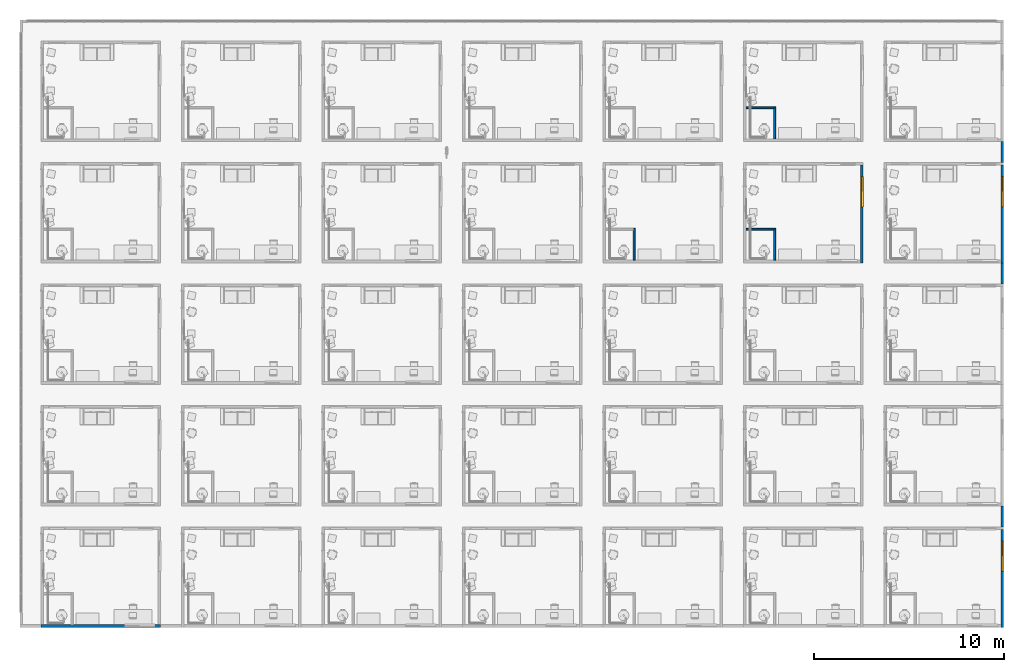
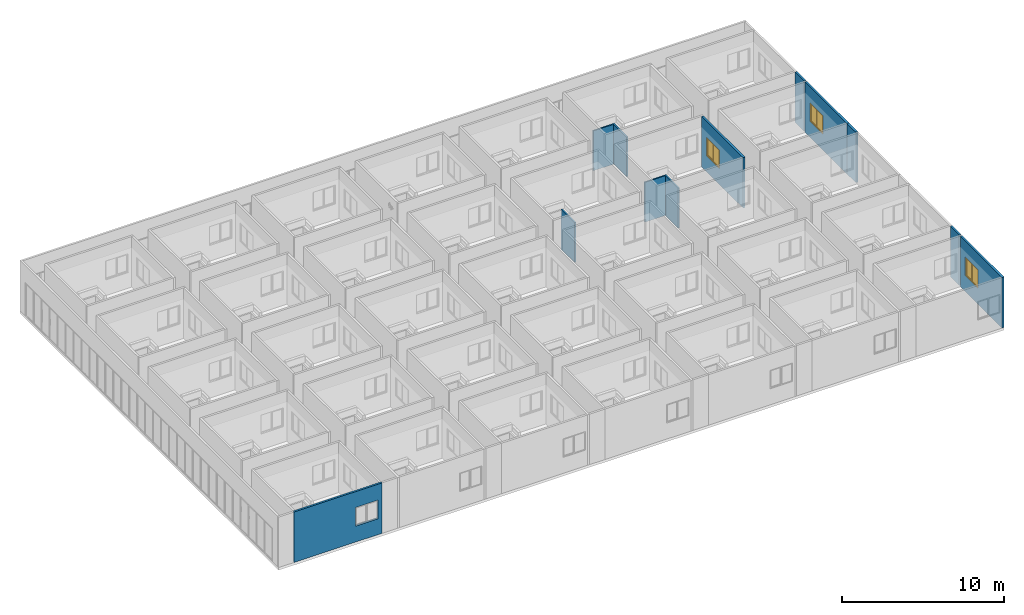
# One storey, part 9 of 69: 12 walls, 3 windows, 4 openings.
"""IFC4 building model written with IfcOpenShell, lengths in centimetres."""

import ifcopenshell
import ifcopenshell.guid

model = None  # the IFC model being written
_history = None  # IfcOwnerHistory: only IFC2X3 demands one
_inside = {}  # id of a spatial element -> (the spatial element, [elements in it])
_under = {}  # id of a project, library or spatial element -> (it, [spatial elements below it])
_declared = {}  # id of a project -> (the project, [libraries it declares])
_typed = {}  # id of a type object -> (the type object, [elements of that type])
_made_of = {}  # id of a material, layer set ... -> (it, [elements and type objects made of it])


def new_model(schema):
    """Start an empty IFC model of exactly this schema.

    Asked for "IFC4X3", IfcOpenShell would pick the latest addendum, in which some entities
    have other attributes; the version numbers below select the first issue.
    IFC2X3 requires an IfcOwnerHistory on every rooted entity: one is made here for all.
    """
    global model, _history
    if schema == "IFC4X3":
        model = ifcopenshell.file(schema_version=(4, 3, 0, 0))
    else:
        model = ifcopenshell.file(schema=schema)
    _inside.clear()
    _under.clear()
    _declared.clear()
    _typed.clear()
    _made_of.clear()
    _history = None
    if model.schema == "IFC2X3":
        org = make("IfcOrganization", Name="unknown")
        user = make(
            "IfcPersonAndOrganization",
            ThePerson=make("IfcPerson", FamilyName="unknown"),
            TheOrganization=org,
        )
        app = make(
            "IfcApplication",
            ApplicationDeveloper=org,
            Version="unknown",
            ApplicationFullName="unknown",
            ApplicationIdentifier="unknown",
        )
        _history = make(
            "IfcOwnerHistory",
            OwningUser=user,
            OwningApplication=app,
            ChangeAction="ADDED",
            CreationDate=0,
        )
    return model


def make(cls, **values):
    """One entity of the class cls with the attributes given. An attribute that is None is left unset."""
    return model.create_entity(
        cls, **{name: value for name, value in values.items() if value is not None}
    )


def entity(cls, *values):
    """Any entity or typed value of the class cls, its attributes in the order of the schema. None: left unset."""
    e = model.create_entity(cls)
    for i, value in enumerate(values):
        if value is not None:
            e[i] = value
    return e


def rooted(cls, **values):
    """An entity with a GlobalId (a new one), such as an element, a storey or a relation."""
    return make(cls, GlobalId=ifcopenshell.guid.new(), OwnerHistory=_history, **values)


def si_unit(unit_type, name, prefix=None):
    """IfcSIUnit, for example si_unit("LENGTHUNIT", "METRE", prefix="MILLI")."""
    return make("IfcSIUnit", UnitType=unit_type, Prefix=prefix, Name=name)


def converted_unit(unit_type, name, factor, base, dimensions=None, offset=None):
    """IfcConversionBasedUnit, such as the inch: factor (a typed value) times the base unit."""
    return make(
        "IfcConversionBasedUnit"
        if offset is None
        else "IfcConversionBasedUnitWithOffset",
        ConversionOffset=offset,
        Dimensions=None
        if dimensions is None
        else entity("IfcDimensionalExponents", *dimensions),
        UnitType=unit_type,
        Name=name,
        ConversionFactor=make(
            "IfcMeasureWithUnit", ValueComponent=factor, UnitComponent=base
        ),
    )


def derived_unit(unit_type, elements):
    """IfcDerivedUnit: a product of units, each with its exponent."""
    return make(
        "IfcDerivedUnit",
        Elements=[
            make("IfcDerivedUnitElement", Unit=unit, Exponent=power)
            for unit, power in elements
        ],
        UnitType=unit_type,
    )


def assignment(units):
    """IfcUnitAssignment: the units of a project."""
    return None if units is None else make("IfcUnitAssignment", Units=units)


def point(xyz):
    """IfcCartesianPoint."""
    return None if xyz is None else make("IfcCartesianPoint", Coordinates=xyz)


def direction(xyz):
    """IfcDirection."""
    return None if xyz is None else make("IfcDirection", DirectionRatios=xyz)


def frame(location, z_axis=None, x_axis=None):
    """IfcAxis2Placement3D, a coordinate frame: its origin and axes. An axis left out is left unset."""
    return make(
        "IfcAxis2Placement3D",
        Location=point(location),
        Axis=direction(z_axis),
        RefDirection=direction(x_axis),
    )


def origin():
    """The frame at (0, 0, 0) with its axes left unset."""
    return frame((0.0, 0.0, 0.0))


def place(relative_to, where):
    """IfcLocalPlacement: puts the frame where relative to a parent placement (None: the world)."""
    return make(
        "IfcLocalPlacement", PlacementRelTo=relative_to, RelativePlacement=where
    )


def context(
    kind, dimensions, precision=None, world=None, true_north=None, identifier=None
):
    """IfcGeometricRepresentationContext, for example the 3D "Model" context."""
    return make(
        "IfcGeometricRepresentationContext",
        ContextIdentifier=identifier,
        ContextType=kind,
        CoordinateSpaceDimension=dimensions,
        Precision=precision,
        WorldCoordinateSystem=world,
        TrueNorth=true_north,
    )


def subcontext(parent, identifier, kind, view, scale=None):
    """IfcGeometricRepresentationSubContext, for example "Body" below "Model"."""
    return make(
        "IfcGeometricRepresentationSubContext",
        ContextIdentifier=identifier,
        ContextType=kind,
        ParentContext=parent,
        TargetScale=scale,
        TargetView=view,
    )


def project(units=None, contexts=None):
    """IfcProject with its units and contexts."""
    return rooted(
        "IfcProject",
        Name="project",
        RepresentationContexts=contexts,
        UnitsInContext=assignment(units),
    )


def spatial(cls, under=None, at=None, **own):
    """A site, building, storey or space (cls), placed at a placement, below another one or the project."""
    s = rooted(cls, ObjectPlacement=at, **own)
    if under is not None:
        _under.setdefault(under.id(), (under, []))[1].append(s)
    return s


def point_list(points):
    """IfcCartesianPointList2D or 3D."""
    cls = (
        "IfcCartesianPointList2D" if len(points[0]) == 2 else "IfcCartesianPointList3D"
    )
    return make(cls, CoordList=points)


def indexed_curve(points, segments=None, self_intersect=None):
    """IfcIndexedPolyCurve: lines and arcs through numbered points (the first is 1)."""
    return make(
        "IfcIndexedPolyCurve",
        Points=point_list(points),
        Segments=segments,
        SelfIntersect=self_intersect,
    )


def outline(outer, holes=None, kind="AREA"):
    """IfcArbitraryClosedProfileDef: a profile drawn as a closed curve; with holes, ...WithVoids."""
    if holes is None:
        return make("IfcArbitraryClosedProfileDef", ProfileType=kind, OuterCurve=outer)
    return make(
        "IfcArbitraryProfileDefWithVoids",
        ProfileType=kind,
        OuterCurve=outer,
        InnerCurves=holes,
    )


def extrude(swept, where, along, depth):
    """IfcExtrudedAreaSolid: the profile swept, set in the frame where, extruded along a direction by depth."""
    return make(
        "IfcExtrudedAreaSolid",
        SweptArea=swept,
        Position=where,
        ExtrudedDirection=direction(along),
        Depth=depth,
    )


def polygons(points, faces, closed=None, point_numbers=None):
    """IfcPolygonalFaceSet: a face is its outer loop, then its inner loops; points numbered from 1."""
    made = []
    for loops in faces:
        if len(loops) == 1:
            made.append(make("IfcIndexedPolygonalFace", CoordIndex=loops[0]))
        else:
            made.append(
                make(
                    "IfcIndexedPolygonalFaceWithVoids",
                    CoordIndex=loops[0],
                    InnerCoordIndices=loops[1:],
                )
            )
    return make(
        "IfcPolygonalFaceSet",
        Coordinates=point_list(points),
        Closed=closed,
        Faces=made,
        PnIndex=point_numbers,
    )


def shape(context_of_items, identifier, shape_type, items):
    """IfcShapeRepresentation: the items that make up one representation, for example the "Body"."""
    return make(
        "IfcShapeRepresentation",
        ContextOfItems=context_of_items,
        RepresentationIdentifier=identifier,
        RepresentationType=shape_type,
        Items=items,
    )


def source(mapping_origin, context_of_items, identifier, shape_type, items):
    """IfcRepresentationMap: a shape defined once, which mapped items show again and again."""
    return make(
        "IfcRepresentationMap",
        MappingOrigin=mapping_origin,
        MappedRepresentation=shape(context_of_items, identifier, shape_type, items),
    )


def transform(
    local_origin,
    x_axis=None,
    y_axis=None,
    z_axis=None,
    scale=None,
    scale2=None,
    scale3=None,
    uniform=True,
):
    """IfcCartesianTransformationOperator3D, or its non-uniform kind. x_axis, y_axis, z_axis: its Axis1, 2, 3."""
    if uniform:
        return make(
            "IfcCartesianTransformationOperator3D",
            Axis1=direction(x_axis),
            Axis2=direction(y_axis),
            LocalOrigin=point(local_origin),
            Scale=scale,
            Axis3=direction(z_axis),
        )
    return make(
        "IfcCartesianTransformationOperator3DnonUniform",
        Axis1=direction(x_axis),
        Axis2=direction(y_axis),
        LocalOrigin=point(local_origin),
        Scale=scale,
        Axis3=direction(z_axis),
        Scale2=scale2,
        Scale3=scale3,
    )


def mapped(mapping_source, mapping_target):
    """IfcMappedItem: shows the shape of a source again, moved by a transform."""
    return make(
        "IfcMappedItem", MappingSource=mapping_source, MappingTarget=mapping_target
    )


def material(Name=None, Category=None):
    """IfcMaterial."""
    return make("IfcMaterial", Name=Name, Category=Category)


def constituent(of_material, Name=None, Category=None, fraction=None):
    """IfcMaterialConstituent: one of the materials an element consists of."""
    return make(
        "IfcMaterialConstituent",
        Name=Name,
        Material=of_material,
        Fraction=fraction,
        Category=Category,
    )


def constituent_set(constituents=None, Name=None):
    """IfcMaterialConstituentSet."""
    return make(
        "IfcMaterialConstituentSet", Name=Name, MaterialConstituents=constituents
    )


def made_of(thing, what):
    """Note that an element or type object is made of a material, layer set ...; save() writes the relation."""
    if what is not None:
        _made_of.setdefault(what.id(), (what, []))[1].append(thing)
    return thing


def type_object(cls, material=None, **own):
    """A type object (cls), such as IfcWallType, which elements share."""
    return made_of(rooted(cls, **own), material)


def type_shapes(of_type, sources):
    """Give a type object the sources (RepresentationMaps) that its elements show as mapped items."""
    of_type.RepresentationMaps = sources


def element(
    cls,
    number,
    at=None,
    inside=None,
    cuts=None,
    type_object=None,
    material=None,
    context=None,
    identifier="Body",
    shape_type=None,
    held_by="IfcProductDefinitionShape",
    body=None,
    shapes=None,
    **own,
):
    """One element of the class cls, such as IfcWall. Its Tag is "e" and its number.

    at: its placement. inside: the storey or other place that contains it. cuts: it is an
    opening in that element (IfcRelVoidsElement). A single representation is given by context,
    identifier, shape_type and body (its items); several are given by shapes. held_by: the class
    of the entity that holds the representations. save() writes the other relations.
    """
    e = rooted(cls, Tag="e%d" % number, ObjectPlacement=at, **own)
    if body is not None:
        shapes = [shape(context, identifier, shape_type, body)]
    if shapes is not None:
        e.Representation = make(held_by, Representations=shapes)
    if inside is not None:
        _inside.setdefault(inside.id(), (inside, []))[1].append(e)
    if cuts is not None:
        rooted(
            "IfcRelVoidsElement", RelatingBuildingElement=cuts, RelatedOpeningElement=e
        )
    if type_object is not None:
        _typed.setdefault(type_object.id(), (type_object, []))[1].append(e)
    return made_of(e, material)


def fill(opening, filler):
    """IfcRelFillsElement: the door or window that sits in an opening."""
    return rooted(
        "IfcRelFillsElement",
        RelatingOpeningElement=opening,
        RelatedBuildingElement=filler,
    )


def aggregate(whole, parts):
    """IfcRelAggregates: a whole, such as a stair, and the parts it consists of."""
    return rooted("IfcRelAggregates", RelatingObject=whole, RelatedObjects=parts)


def save(model, path):
    """Write the relations noted so far, then the file.

    IfcRelAggregates (storeys below a building ...), IfcRelContainedInSpatialStructure (elements
    in a storey), IfcRelDefinesByType, IfcRelAssociatesMaterial and IfcRelDeclares: one each for
    every whole, place, type object, material and project.
    """
    for whole, parts in _under.values():
        aggregate(whole, parts)
    for where, things in _inside.values():
        rooted(
            "IfcRelContainedInSpatialStructure",
            RelatedElements=things,
            RelatingStructure=where,
        )
    for kind, things in _typed.values():
        rooted("IfcRelDefinesByType", RelatedObjects=things, RelatingType=kind)
    for what, things in _made_of.values():
        rooted("IfcRelAssociatesMaterial", RelatedObjects=things, RelatingMaterial=what)
    for by, libraries in _declared.values():
        rooted("IfcRelDeclares", RelatingContext=by, RelatedDefinitions=libraries)
    model.write(path)


model = new_model("IFC4")

# Units and contexts
model_context = context("Model", 3, precision=0.001, world=origin(), true_north=direction((6.123233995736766e-17, 1.0)))
body_context = subcontext(model_context, "Body", "Model", "MODEL_VIEW")
ifc_project = project(units=[si_unit("LENGTHUNIT", "METRE", prefix="CENTI"), si_unit("AREAUNIT", "SQUARE_METRE"), si_unit("VOLUMEUNIT", "CUBIC_METRE"), derived_unit("THERMALTRANSMITTANCEUNIT", [(si_unit("MASSUNIT", "GRAM", prefix="KILO"), 1), (si_unit("THERMODYNAMICTEMPERATUREUNIT", "KELVIN"), -1), (si_unit("TIMEUNIT", "SECOND"), -3)]), converted_unit("PLANEANGLEUNIT", "DEGREE", entity("IfcPlaneAngleMeasure", 0.017453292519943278), si_unit("PLANEANGLEUNIT", "RADIAN"), dimensions=[0, 0, 0, 0, 0, 0, 0]), derived_unit("MASSDENSITYUNIT", [(si_unit("MASSUNIT", "GRAM", prefix="KILO"), 1), (si_unit("LENGTHUNIT", "METRE"), -3)]), derived_unit("VAPORPERMEABILITYUNIT", [(si_unit("LENGTHUNIT", "METRE"), -1), (si_unit("TIMEUNIT", "SECOND"), 1)]), derived_unit("USERDEFINED", [(si_unit("MASSUNIT", "GRAM", prefix="KILO"), 1), (si_unit("TIMEUNIT", "SECOND"), -3), (si_unit("LENGTHUNIT", "METRE"), 3), (si_unit("ELECTRICCURRENTUNIT", "AMPERE"), -2)]), derived_unit("SPECIFICHEATCAPACITYUNIT", [(si_unit("THERMODYNAMICTEMPERATUREUNIT", "KELVIN"), -1), (si_unit("LENGTHUNIT", "METRE"), 2), (si_unit("TIMEUNIT", "SECOND"), -2)]), derived_unit("THERMALCONDUCTANCEUNIT", [(si_unit("MASSUNIT", "GRAM", prefix="KILO"), 1), (si_unit("THERMODYNAMICTEMPERATUREUNIT", "KELVIN"), -1), (si_unit("TIMEUNIT", "SECOND"), -3), (si_unit("LENGTHUNIT", "METRE"), 1)]), si_unit("PRESSUREUNIT", "PASCAL"), derived_unit("MODULUSOFELASTICITYUNIT", [(si_unit("MASSUNIT", "GRAM", prefix="KILO"), 1), (si_unit("LENGTHUNIT", "METRE"), -1), (si_unit("TIMEUNIT", "SECOND"), -2)]), derived_unit("THERMALEXPANSIONCOEFFICIENTUNIT", [(si_unit("THERMODYNAMICTEMPERATUREUNIT", "KELVIN"), -1)])], contexts=[model_context])

# Site, building, storey
site_placement = place(None, origin())
site = spatial("IfcSite", under=ifc_project, at=site_placement, Name="Default", CompositionType="ELEMENT")
building_placement = place(site_placement, origin())
building = spatial("IfcBuilding", under=site, at=building_placement, Name="IDS Escape Game Building", CompositionType="ELEMENT")
storey_placement = place(building_placement, origin())
storey = spatial("IfcBuildingStorey", under=building, at=storey_placement, Name="00_Ground Floor", CompositionType="ELEMENT", Elevation=0.0)

# Wall, opening
ifc_material_1 = material(Name="ARC_FME.g2_Fg2 Masonry_00_gen_BERSnl", Category="g - klei")
wall_type_1 = type_object("IfcWallType", Name="Basic Wall:ARC_22.10_WA_LB_SB14_gen_BERSnl", PredefinedType="STANDARD")
wall_1_placement = place(storey_placement, frame((-7.0, 6.0, 0.0)))
wall_1 = element("IfcWall", 1, at=wall_1_placement, inside=storey, type_object=wall_type_1, material=ifc_material_1, Name="Basic Wall:ARC_22.10_WA_LB_SB14_gen_BERSnl", ObjectType="Basic Wall:ARC_22.10_WA_LB_SB14_gen_BERSnl", PredefinedType="NOTDEFINED", context=body_context, shape_type="Tessellation", body=[
    polygons([(1.0997869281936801e-14, -7.000000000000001, 0.0), (627.9999999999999, -7.000000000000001, 0.0), (627.9999999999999, -7.000000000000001, 380.0), (0.0, -7.000000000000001, 380.0), (438.99999999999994, -7.000000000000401, 120.0), (438.99999999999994, -7.000000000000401, 260.0000000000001), (598.9999999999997, -7.000000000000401, 260.0000000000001), (598.9999999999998, -7.0000000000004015, 120.00000000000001), (439.0, 6.999999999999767, 260.00000000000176), (438.99999999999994, 6.999999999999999, 120.0), (598.9999999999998, 6.999999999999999, 120.00000000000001), (598.9999999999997, 6.999999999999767, 260.00000000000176), (0.0, 6.999999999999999, 0.0), (0.0, 6.999999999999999, 380.0), (13.999999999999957, 6.999999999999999, 379.99999999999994), (614.0, 6.999999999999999, 380.0), (627.9999999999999, 6.999999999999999, 380.0), (627.9999999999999, 6.999999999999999, 0.0), (614.0, 6.999999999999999, 0.0), (169.00000000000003, 6.999999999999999, 0.0), (159.0000000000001, 6.999999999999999, 0.0), (14.000000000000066, 6.999999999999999, 0.0)], [[[1, 2, 3, 4], [5, 6, 7, 8]], [[13, 14, 15, 16, 17, 18, 19, 20, 21, 22], [9, 10, 11, 12]], [[2, 1, 13, 22, 21, 20, 19, 18]], [[4, 3, 17, 16, 15, 14]], [[8, 11, 10, 5]], [[6, 5, 10, 9]], [[11, 8, 7, 12]], [[6, 9, 12, 7]], [[1, 4, 14, 13]], [[3, 2, 18, 17]]], closed=True),
])
opening_1_placement = place(wall_1_placement, frame((7.0, -6.0, 120.0)))
element("IfcOpeningElement", 2, at=opening_1_placement, cuts=wall_1, Name="Basic Wall:ARC_22.10_WA_LB_SB14_gen_BERSnl", PredefinedType="OPENING", context=body_context, shape_type="Tessellation", body=[
    polygons([(431.9999999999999, -0.9999999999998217, 0.0), (431.9999999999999, -0.9999999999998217, -1.0), (431.9999999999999, -5.999999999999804, -1.0), (431.9999999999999, -5.999999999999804, 0.0), (591.9999999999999, -0.9999999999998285, 0.0), (591.9999999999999, -5.999999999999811, 0.0), (591.9999999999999, -5.999999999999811, -1.0), (591.9999999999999, -0.9999999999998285, -1.0), (436.99999999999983, -1.000000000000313, 0.0), (586.9999999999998, -1.000000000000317, 0.0), (586.9999999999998, -5.999999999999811, 0.0), (586.9999999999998, -6.000000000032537, 134.9999999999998), (436.99999999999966, -6.00000000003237, 134.9999999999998), (436.99999999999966, -5.999999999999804, 0.0), (431.99999999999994, 18.036825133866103, 0.0), (431.99999999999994, -1.00000000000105, 0.0), (431.9999999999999, -1.00000000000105, 140.00000000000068), (431.9999999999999, 18.036825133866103, 140.00000000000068), (591.9999999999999, 18.036825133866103, 140.0000000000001), (591.9999999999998, -1.00000000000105, 140.0000000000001), (591.9999999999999, -1.0000000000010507, 0.0), (591.9999999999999, 18.036825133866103, 0.0), (436.99999999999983, -1.0000000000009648, 134.9999999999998), (586.9999999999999, -1.0000000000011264, 134.9999999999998)], [[[1, 2, 3, 4]], [[5, 6, 7, 8]], [[1, 9, 10, 5, 8, 2]], [[2, 8, 7, 3]], [[3, 7, 6, 11, 12, 13, 14, 4]], [[4, 14, 9, 1]], [[15, 16, 17, 18]], [[19, 20, 21, 22]], [[18, 17, 20, 19]], [[18, 19, 22, 15]], [[17, 16, 9, 23, 24, 10, 21, 20]], [[22, 21, 10, 9, 16, 15]], [[11, 10, 24, 12]], [[13, 23, 9, 14]], [[12, 24, 23, 13]], [[5, 10, 11, 6]]], closed=True),
])

# Wall, opening, window
wall_2_placement = place(storey_placement, frame((5042.0, -1.0, 0.0), z_axis=(0.0, 0.0, 1.0), x_axis=(0.0, 1.0, 0.0)))
wall_2 = element("IfcWall", 3, at=wall_2_placement, inside=storey, type_object=wall_type_1, material=ifc_material_1, Name="Basic Wall:ARC_22.10_WA_LB_SB14_gen_BERSnl", ObjectType="Basic Wall:ARC_22.10_WA_LB_SB14_gen_BERSnl", PredefinedType="NOTDEFINED", context=body_context, shape_type="Tessellation", body=[
    polygons([(3.214761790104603e-14, -7.000000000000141, 0.0), (514.0, -7.000000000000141, 0.0), (514.0, -7.000000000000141, 380.0), (0.0, -7.000000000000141, 380.0), (454.00000000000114, -7.000000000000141, 260.00000000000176), (454.0000000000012, -7.000000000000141, 120.0), (294.0000000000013, -7.000000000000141, 120.00000000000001), (294.00000000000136, -7.000000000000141, 260.00000000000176), (454.0000000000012, 7.000000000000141, 120.0), (454.0000000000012, 7.000000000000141, 260.0000000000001), (294.0000000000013, 7.000000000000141, 260.0000000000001), (294.0000000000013, 7.000000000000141, 120.00000000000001), (0.0, 7.000000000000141, 0.0), (2.1361246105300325e-14, 7.000000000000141, 380.0), (14.00000000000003, 7.000000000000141, 380.0), (514.0, 7.000000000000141, 380.0), (514.0, 7.000000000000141, 0.0), (14.000000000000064, 7.000000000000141, 0.0)], [[[1, 2, 3, 4], [5, 6, 7, 8]], [[13, 14, 15, 16, 17, 18], [9, 10, 11, 12]], [[2, 1, 13, 18, 17]], [[4, 3, 16, 15, 14]], [[10, 9, 6, 5]], [[7, 12, 11, 8]], [[10, 5, 8, 11]], [[12, 7, 6, 9]], [[1, 4, 14, 13]], [[3, 2, 17, 16]]], closed=True),
])
opening_2_placement = place(wall_2_placement, frame((1.0, 5042.0, 120.0), z_axis=(0.0, 0.0, 1.0), x_axis=(0.0, -1.0, 0.0)))
opening_2 = element("IfcOpeningElement", 4, at=opening_2_placement, cuts=wall_2, Name="Basic Wall:ARC_22.10_WA_LB_SB14_gen_BERSnl", PredefinedType="OPENING", context=body_context, shape_type="Tessellation", body=[
    polygons([(5035.0, 453.0000000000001, 0.0), (5035.0, 453.0000000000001, -1.0), (5030.0, 453.0000000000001, -1.0), (5030.0, 453.0000000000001, 0.0), (5035.0, 293.0000000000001, 0.0), (5030.0, 293.0000000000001, 0.0), (5030.0, 293.0000000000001, -1.0), (5035.0, 293.0000000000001, -1.0), (5034.999999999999, 448.0000000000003, 0.0), (5035.0, 298.00000000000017, 0.0), (5030.0, 298.00000000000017, 0.0), (5029.999999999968, 298.0000000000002, 134.9999999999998), (5029.999999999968, 448.0000000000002, 134.9999999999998), (5030.0, 448.0000000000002, 0.0), (5054.036825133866, 453.00000000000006, 0.0), (5034.999999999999, 453.00000000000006, 0.0), (5034.999999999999, 453.0000000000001, 140.00000000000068), (5054.036825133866, 453.0000000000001, 140.00000000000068), (5054.036825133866, 293.00000000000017, 140.0000000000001), (5034.999999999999, 293.00000000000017, 140.0000000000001), (5034.999999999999, 293.00000000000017, 0.0), (5054.036825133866, 293.00000000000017, 0.0), (5034.999999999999, 448.0000000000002, 134.9999999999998), (5034.999999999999, 298.0000000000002, 134.9999999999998)], [[[1, 2, 3, 4]], [[5, 6, 7, 8]], [[1, 9, 10, 5, 8, 2]], [[2, 8, 7, 3]], [[3, 7, 6, 11, 12, 13, 14, 4]], [[4, 14, 9, 1]], [[15, 16, 17, 18]], [[19, 20, 21, 22]], [[18, 17, 20, 19]], [[18, 19, 22, 15]], [[17, 16, 9, 23, 24, 10, 21, 20]], [[22, 21, 10, 9, 16, 15]], [[11, 10, 24, 12]], [[13, 23, 9, 14]], [[12, 24, 23, 13]], [[5, 10, 11, 6]]], closed=True),
])
ifc_material_2 = material(Name="<Unnamed>")
ifc_constituent_1 = constituent(ifc_material_2, Name="<Unnamed>", fraction=0.0)
ifc_material_3 = material(Name="ARC_FME.o1_glass_00_gen_BERSnl", Category="o - glas")
ifc_constituent_2 = constituent(ifc_material_3, Name="ARC_FME.o1_glass_00_gen_BERSnl", Category="o - glas", fraction=1.0)
ifc_constituent_set_1 = constituent_set(constituents=[ifc_constituent_1, ifc_constituent_2])
ifc_constituent_3 = constituent(ifc_material_2, Name="BE Tablet", fraction=0.0)
ifc_constituent_4 = constituent(ifc_material_2, Name="Frame/Mullion", fraction=0.0)
ifc_constituent_5 = constituent(ifc_material_3, Name="Glass", Category="o - glas", fraction=1.0)
ifc_constituent_set_2 = constituent_set(constituents=[ifc_constituent_3, ifc_constituent_4, ifc_constituent_5])
window_type = type_object("IfcWindowType", Name="ARC_31_WI_WB_Dubbel Raam-Recht-Vast en Draaiend_gen_BERSnl:Links-Draaiend / Rechts-Draaiend", PartitioningType="NOTDEFINED", PredefinedType="WINDOW", material=ifc_constituent_set_2)
shared_shape = source(origin(), body_context, "Body", "Tessellation", [
    extrude(outline(indexed_curve([(-80.00000000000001, -4.999999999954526), (80.00000000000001, -4.999999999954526), (80.00000000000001, 4.999999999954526), (-80.00000000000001, 4.999999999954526), (-80.00000000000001, -4.999999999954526)], self_intersect=False)), frame((80.0, 7.036825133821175, 1.0), z_axis=(0.0, 0.0, 1.0), x_axis=(-1.0, 0.0, 0.0)), (0.0, 0.0, 1.0), 2.000000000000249),
    extrude(outline(indexed_curve([(-2.9999999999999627, -3.000000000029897), (-7.656209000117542e-14, -3.000000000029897), (-7.064016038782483e-14, 5.979964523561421e-11), (3.0000000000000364, 5.978991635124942e-11), (3.0000000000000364, 2.9999999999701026), (-2.9999999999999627, 2.9999999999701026), (-2.9999999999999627, -3.000000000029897)], self_intersect=False)), frame((80.0, 15.03682513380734, 7.0)), (0.0, 0.0, 1.0), 128.00000000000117),
    extrude(outline(indexed_curve([(-35.499999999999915, -1.2000000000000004), (35.499999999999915, -1.2000000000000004), (35.49999999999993, 1.2), (-35.499999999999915, 1.2), (-35.499999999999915, -1.2000000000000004)], self_intersect=False)), frame((41.50000000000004, 15.036825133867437, 7.0), z_axis=(0.0, 0.0, 1.0), x_axis=(-1.0, 0.0, 0.0)), (0.0, 0.0, 1.0), 128.000000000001),
    extrude(outline(indexed_curve([(-67.00000000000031, -38.500000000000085), (67.00000000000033, -38.5000000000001), (67.00000000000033, 38.50000000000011), (-67.00000000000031, 38.50000000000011), (-67.00000000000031, -38.500000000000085)], self_intersect=False), holes=[indexed_curve([(61.00000000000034, -32.50000000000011), (-61.00000000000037, -32.500000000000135), (-61.00000000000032, 32.50000000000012), (61.00000000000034, 32.50000000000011), (61.00000000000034, -32.50000000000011)], self_intersect=False)]), frame((118.5, 9.03682513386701, 71.0), z_axis=(0.0, 1.0, 0.0), x_axis=(0.0, 0.0, -1.0)), (0.0, 0.0, 1.0), 6.0),
    extrude(outline(indexed_curve([(-32.500000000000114, -1.2000000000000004), (32.500000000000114, -1.2000000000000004), (32.500000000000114, 1.2000000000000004), (-32.500000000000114, 1.2000000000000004), (-32.500000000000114, -1.2000000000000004)], self_intersect=False)), frame((118.5, 12.036825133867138, 10.0), z_axis=(0.0, 0.0, 1.0), x_axis=(-1.0, 0.0, 0.0)), (0.0, 0.0, 1.0), 122.00000000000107),
    polygons([(160.00000000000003, 18.03682513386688, 141.00000000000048), (160.00000000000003, 18.03682513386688, 1.0000000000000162), (4.0607517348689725e-14, 18.036825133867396, 1.0000000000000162), (4.0607517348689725e-14, 18.036825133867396, 141.00000000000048), (6.000000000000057, 18.03682513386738, 135.00000000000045), (6.000000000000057, 18.03682513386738, 7.000000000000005), (76.99999999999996, 18.03682513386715, 7.000000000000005), (154.00000000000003, 18.0368251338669, 7.000000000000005), (154.00000000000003, 18.0368251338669, 135.00000000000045), (76.99999999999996, 18.03682513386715, 135.00000000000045), (160.0, 12.03682513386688, 141.00000000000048), (160.0, 12.03682513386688, 1.0000000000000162), (2.7071678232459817e-14, 12.036825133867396, 1.0000000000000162), (2.7071678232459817e-14, 12.036825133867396, 141.00000000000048), (6.000000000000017, 12.036825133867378, 135.00000000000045), (6.000000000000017, 12.036825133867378, 7.000000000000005), (76.99999999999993, 12.036825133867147, 7.000000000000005), (79.99999999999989, 12.036825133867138, 7.000000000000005), (79.9999999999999, 15.036825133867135, 7.000000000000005), (154.00000000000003, 15.0368251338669, 7.000000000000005), (154.00000000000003, 15.036825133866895, 135.00000000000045), (76.99999999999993, 12.036825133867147, 135.00000000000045), (79.99999999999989, 12.036825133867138, 135.00000000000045), (79.99999999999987, 12.036825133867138, 138.00000000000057), (157.00000000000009, 12.036825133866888, 138.00000000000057), (157.00000000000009, 12.036825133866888, 3.9999999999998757), (79.99999999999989, 12.036825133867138, 3.9999999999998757), (157.0000000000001, 15.036825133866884, 3.9999999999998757), (157.0000000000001, 15.036825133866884, 138.00000000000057), (79.99999999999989, 15.036825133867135, 3.9999999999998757), (79.99999999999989, 15.036825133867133, 138.00000000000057), (79.99999999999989, 15.036825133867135, 135.00000000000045)], [[[1, 2, 3, 4], [5, 6, 7, 8, 9, 10]], [[2, 1, 11, 12]], [[3, 2, 12, 13]], [[4, 3, 13, 14]], [[6, 5, 15, 16]], [[6, 16, 17, 18, 19, 20, 8, 7]], [[9, 8, 20, 21]], [[11, 14, 13, 12], [16, 15, 22, 23, 24, 25, 26, 27, 18, 17]], [[28, 26, 25, 29]], [[30, 27, 26, 28]], [[31, 24, 23, 32]], [[30, 28, 29, 31, 32, 21, 20, 19]], [[1, 4, 14, 11]], [[15, 5, 10, 9, 21, 32, 23, 22]], [[24, 31, 29, 25]], [[27, 30, 19, 18]]], closed=True),
])
type_shapes(window_type, [shared_shape])
window_1_placement = place(opening_2_placement, frame((5054.036825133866, 293.0, -1.0), z_axis=(0.0, 0.0, 1.0), x_axis=(0.0, 1.0, 0.0)))
window_1 = element("IfcWindow", 5, at=window_1_placement, inside=storey, type_object=window_type, material=ifc_constituent_set_1, Name="ARC_31_WI_WB_Dubbel Raam-Recht-Vast en Draaiend_gen_BERSnl:Links-Draaiend / Rechts-Draaiend", ObjectType="ARC_31_WI_WB_Dubbel Raam-Recht-Vast en Draaiend_gen_BERSnl:Links-Draaiend / Rechts-Draaiend", OverallHeight=140.00000000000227, OverallWidth=160.0000000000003, PartitioningType="NOTDEFINED", PredefinedType="WINDOW", context=body_context, shape_type="MappedRepresentation", body=[
    mapped(shared_shape, transform((0.0, 0.0, 0.0), scale=1.0)),
])
fill(opening_2, window_1)

wall_3_placement = place(storey_placement, frame((4304.0, 1913.0, 0.0), z_axis=(0.0, 0.0, 1.0), x_axis=(0.0, 1.0, 0.0)))
wall_3 = element("IfcWall", 6, at=wall_3_placement, inside=storey, type_object=wall_type_1, material=ifc_material_1, Name="Basic Wall:ARC_22.10_WA_LB_SB14_gen_BERSnl", ObjectType="Basic Wall:ARC_22.10_WA_LB_SB14_gen_BERSnl", PredefinedType="NOTDEFINED", context=body_context, shape_type="Tessellation", body=[
    polygons([(0.0, -7.000000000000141, 0.0), (513.9999999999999, -7.000000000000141, 0.0), (513.9999999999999, -7.000000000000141, 380.0), (0.0, -7.000000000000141, 380.0), (454.00000000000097, -7.000000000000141, 260.00000000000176), (454.00000000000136, -7.000000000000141, 120.0), (294.00000000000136, -7.000000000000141, 120.00000000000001), (294.00000000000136, -7.000000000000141, 260.00000000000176), (454.00000000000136, 7.000000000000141, 120.0), (454.00000000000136, 7.000000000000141, 260.0000000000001), (294.00000000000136, 7.000000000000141, 260.0000000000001), (294.00000000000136, 7.000000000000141, 120.00000000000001), (0.0, 7.000000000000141, 0.0), (0.0, 7.000000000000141, 380.0), (14.000000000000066, 7.000000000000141, 380.0), (513.9999999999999, 7.000000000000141, 380.0), (513.9999999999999, 7.000000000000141, 0.0), (14.000000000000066, 7.000000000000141, 0.0)], [[[1, 2, 3, 4], [5, 6, 7, 8]], [[13, 14, 15, 16, 17, 18], [9, 10, 11, 12]], [[2, 1, 13, 18, 17]], [[4, 3, 16, 15, 14]], [[10, 9, 6, 5]], [[7, 12, 11, 8]], [[10, 5, 8, 11]], [[12, 7, 6, 9]], [[1, 4, 14, 13]], [[3, 2, 17, 16]]], closed=True),
])
opening_3_placement = place(wall_3_placement, frame((-1913.0, 4304.0, 120.0), z_axis=(0.0, 0.0, 1.0), x_axis=(0.0, -1.0, 0.0)))
opening_3 = element("IfcOpeningElement", 7, at=opening_3_placement, cuts=wall_3, Name="Basic Wall:ARC_22.10_WA_LB_SB14_gen_BERSnl", PredefinedType="OPENING", context=body_context, shape_type="Tessellation", body=[
    polygons([(4297.0, 2367.0000000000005, 0.0), (4297.0, 2367.0000000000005, -1.0), (4292.000000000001, 2367.0000000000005, -1.0), (4292.000000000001, 2367.0000000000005, 0.0), (4297.0, 2207.0000000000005, 0.0), (4292.000000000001, 2207.0000000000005, 0.0), (4292.000000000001, 2207.0000000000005, -1.0), (4297.0, 2207.0000000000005, -1.0), (4297.0, 2362.0000000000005, 0.0), (4297.0, 2212.0000000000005, 0.0), (4292.000000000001, 2212.0000000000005, 0.0), (4291.999999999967, 2212.0, 134.9999999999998), (4291.999999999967, 2362.0000000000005, 134.9999999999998), (4292.000000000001, 2362.0000000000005, 0.0), (4316.036825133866, 2367.0000000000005, 0.0), (4296.999999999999, 2367.0000000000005, 0.0), (4296.999999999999, 2367.0000000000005, 140.00000000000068), (4316.036825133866, 2367.0000000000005, 140.00000000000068), (4316.036825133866, 2207.0000000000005, 140.0000000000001), (4296.999999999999, 2207.0000000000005, 140.0000000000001), (4296.999999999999, 2207.0000000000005, 0.0), (4316.036825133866, 2207.0000000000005, 0.0), (4296.999999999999, 2362.0000000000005, 134.9999999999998), (4296.999999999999, 2212.0, 134.9999999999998)], [[[1, 2, 3, 4]], [[5, 6, 7, 8]], [[1, 9, 10, 5, 8, 2]], [[2, 8, 7, 3]], [[3, 7, 6, 11, 12, 13, 14, 4]], [[4, 14, 9, 1]], [[15, 16, 17, 18]], [[19, 20, 21, 22]], [[18, 17, 20, 19]], [[18, 19, 22, 15]], [[17, 16, 9, 23, 24, 10, 21, 20]], [[22, 21, 10, 9, 16, 15]], [[11, 10, 24, 12]], [[13, 23, 9, 14]], [[12, 24, 23, 13]], [[5, 10, 11, 6]]], closed=True),
])
ifc_constituent_6 = constituent(ifc_material_2, Name="<Unnamed>", fraction=0.0)
ifc_constituent_7 = constituent(ifc_material_3, Name="ARC_FME.o1_glass_00_gen_BERSnl", Category="o - glas", fraction=1.0)
ifc_constituent_set_3 = constituent_set(constituents=[ifc_constituent_6, ifc_constituent_7])
window_2_placement = place(opening_3_placement, frame((4316.036825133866, 2207.0, -1.0), z_axis=(0.0, 0.0, 1.0), x_axis=(0.0, 1.0, 0.0)))
window_2 = element("IfcWindow", 8, at=window_2_placement, inside=storey, type_object=window_type, material=ifc_constituent_set_3, Name="ARC_31_WI_WB_Dubbel Raam-Recht-Vast en Draaiend_gen_BERSnl:Links-Draaiend / Rechts-Draaiend", ObjectType="ARC_31_WI_WB_Dubbel Raam-Recht-Vast en Draaiend_gen_BERSnl:Links-Draaiend / Rechts-Draaiend", OverallHeight=140.00000000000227, OverallWidth=160.0000000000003, PartitioningType="NOTDEFINED", PredefinedType="WINDOW", context=body_context, shape_type="MappedRepresentation", body=[
    mapped(shared_shape, transform((0.0, 0.0, 0.0), scale=1.0)),
])
fill(opening_3, window_2)

wall_4_placement = place(storey_placement, frame((5042.0, 1913.0, 0.0), z_axis=(0.0, 0.0, 1.0), x_axis=(0.0, 1.0, 0.0)))
wall_4 = element("IfcWall", 9, at=wall_4_placement, inside=storey, type_object=wall_type_1, material=ifc_material_1, Name="Basic Wall:ARC_22.10_WA_LB_SB14_gen_BERSnl", ObjectType="Basic Wall:ARC_22.10_WA_LB_SB14_gen_BERSnl", PredefinedType="NOTDEFINED", context=body_context, shape_type="Tessellation", body=[
    polygons([(0.0, -7.000000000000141, 0.0), (513.9999999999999, -7.000000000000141, 0.0), (513.9999999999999, -7.000000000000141, 380.0), (0.0, -7.000000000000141, 380.0), (454.00000000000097, -7.000000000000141, 260.00000000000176), (454.00000000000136, -7.000000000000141, 120.0), (294.00000000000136, -7.000000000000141, 120.00000000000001), (294.00000000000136, -7.000000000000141, 260.00000000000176), (454.00000000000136, 7.000000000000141, 120.0), (454.00000000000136, 7.000000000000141, 260.0000000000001), (294.00000000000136, 7.000000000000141, 260.0000000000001), (294.00000000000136, 7.000000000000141, 120.00000000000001), (0.0, 7.000000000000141, 0.0), (0.0, 7.000000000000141, 380.0), (14.000000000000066, 7.000000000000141, 380.0), (513.9999999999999, 7.000000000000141, 380.0), (513.9999999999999, 7.000000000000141, 0.0), (14.000000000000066, 7.000000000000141, 0.0)], [[[1, 2, 3, 4], [5, 6, 7, 8]], [[13, 14, 15, 16, 17, 18], [9, 10, 11, 12]], [[2, 1, 13, 18, 17]], [[4, 3, 16, 15, 14]], [[10, 9, 6, 5]], [[7, 12, 11, 8]], [[10, 5, 8, 11]], [[12, 7, 6, 9]], [[1, 4, 14, 13]], [[3, 2, 17, 16]]], closed=True),
])
opening_4_placement = place(wall_4_placement, frame((-1913.0, 5042.0, 120.0), z_axis=(0.0, 0.0, 1.0), x_axis=(0.0, -1.0, 0.0)))
opening_4 = element("IfcOpeningElement", 10, at=opening_4_placement, cuts=wall_4, Name="Basic Wall:ARC_22.10_WA_LB_SB14_gen_BERSnl", PredefinedType="OPENING", context=body_context, shape_type="Tessellation", body=[
    polygons([(5035.0, 2367.0000000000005, 0.0), (5035.0, 2367.0000000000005, -1.0), (5030.0, 2367.0000000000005, -1.0), (5030.0, 2367.0000000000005, 0.0), (5035.0, 2207.0000000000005, 0.0), (5030.0, 2207.0000000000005, 0.0), (5030.0, 2207.0000000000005, -1.0), (5035.0, 2207.0000000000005, -1.0), (5034.999999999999, 2362.0000000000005, 0.0), (5035.0, 2212.0000000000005, 0.0), (5030.0, 2212.0000000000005, 0.0), (5029.999999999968, 2212.0, 134.9999999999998), (5029.999999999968, 2362.0000000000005, 134.9999999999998), (5030.0, 2362.0000000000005, 0.0), (5054.036825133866, 2367.0000000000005, 0.0), (5034.999999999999, 2367.0000000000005, 0.0), (5034.999999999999, 2367.0000000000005, 140.00000000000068), (5054.036825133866, 2367.0000000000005, 140.00000000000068), (5054.036825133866, 2207.0000000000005, 140.0000000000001), (5034.999999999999, 2207.0000000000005, 140.0000000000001), (5034.999999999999, 2207.0000000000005, 0.0), (5054.036825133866, 2207.0000000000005, 0.0), (5034.999999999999, 2362.0000000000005, 134.9999999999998), (5034.999999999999, 2212.0, 134.9999999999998)], [[[1, 2, 3, 4]], [[5, 6, 7, 8]], [[1, 9, 10, 5, 8, 2]], [[2, 8, 7, 3]], [[3, 7, 6, 11, 12, 13, 14, 4]], [[4, 14, 9, 1]], [[15, 16, 17, 18]], [[19, 20, 21, 22]], [[18, 17, 20, 19]], [[18, 19, 22, 15]], [[17, 16, 9, 23, 24, 10, 21, 20]], [[22, 21, 10, 9, 16, 15]], [[11, 10, 24, 12]], [[13, 23, 9, 14]], [[12, 24, 23, 13]], [[5, 10, 11, 6]]], closed=True),
])
ifc_constituent_8 = constituent(ifc_material_2, Name="<Unnamed>", fraction=0.0)
ifc_constituent_9 = constituent(ifc_material_3, Name="ARC_FME.o1_glass_00_gen_BERSnl", Category="o - glas", fraction=1.0)
ifc_constituent_set_4 = constituent_set(constituents=[ifc_constituent_8, ifc_constituent_9])
window_3_placement = place(opening_4_placement, frame((5054.036825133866, 2207.0, -1.0), z_axis=(0.0, 0.0, 1.0), x_axis=(0.0, 1.0, 0.0)))
window_3 = element("IfcWindow", 11, at=window_3_placement, inside=storey, type_object=window_type, material=ifc_constituent_set_4, Name="ARC_31_WI_WB_Dubbel Raam-Recht-Vast en Draaiend_gen_BERSnl:Links-Draaiend / Rechts-Draaiend", ObjectType="ARC_31_WI_WB_Dubbel Raam-Recht-Vast en Draaiend_gen_BERSnl:Links-Draaiend / Rechts-Draaiend", OverallHeight=140.00000000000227, OverallWidth=160.0000000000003, PartitioningType="NOTDEFINED", PredefinedType="WINDOW", context=body_context, shape_type="MappedRepresentation", body=[
    mapped(shared_shape, transform((0.0, 0.0, 0.0), scale=1.0)),
])
fill(opening_4, window_3)

# Walls
wall_5_placement = place(storey_placement, frame((5042.0, 2551.0, 0.0), z_axis=(0.0, 0.0, 1.0), x_axis=(0.0, -1.0, 0.0)))
element("IfcWall", 12, at=wall_5_placement, inside=storey, type_object=wall_type_1, material=ifc_material_1, Name="Basic Wall:ARC_22.10_WA_LB_SB14_gen_BERSnl", ObjectType="Basic Wall:ARC_22.10_WA_LB_SB14_gen_BERSnl", PredefinedType="NOTDEFINED", context=body_context, shape_type="SweptSolid", body=[
    extrude(outline(indexed_curve([(110.00000000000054, 7.000000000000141), (0.0, 7.000000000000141), (0.0, -7.000000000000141), (110.00000000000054, -7.000000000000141), (110.00000000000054, 7.000000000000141)], self_intersect=False)), origin(), (0.0, 0.0, 1.0), 380.0),
])
wall_6_placement = place(storey_placement, frame((5042.0, 1913.0, 0.0), z_axis=(0.0, 0.0, 1.0), x_axis=(0.0, -1.0, 0.0)))
element("IfcWall", 13, at=wall_6_placement, inside=storey, type_object=wall_type_1, material=ifc_material_1, Name="Basic Wall:ARC_22.10_WA_LB_SB14_gen_BERSnl", ObjectType="Basic Wall:ARC_22.10_WA_LB_SB14_gen_BERSnl", PredefinedType="NOTDEFINED", context=body_context, shape_type="SweptSolid", body=[
    extrude(outline(indexed_curve([(109.9999999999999, 7.000000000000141), (0.0, 7.000000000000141), (0.0, -7.000000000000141), (109.9999999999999, -7.000000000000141), (109.9999999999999, 7.000000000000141)], self_intersect=False)), origin(), (0.0, 0.0, 1.0), 380.0),
])
wall_7_placement = place(storey_placement, frame((5042.0, 637.0, 0.0), z_axis=(0.0, 0.0, 1.0), x_axis=(0.0, -1.0, 0.0)))
element("IfcWall", 14, at=wall_7_placement, inside=storey, type_object=wall_type_1, material=ifc_material_1, Name="Basic Wall:ARC_22.10_WA_LB_SB14_gen_BERSnl", ObjectType="Basic Wall:ARC_22.10_WA_LB_SB14_gen_BERSnl", PredefinedType="NOTDEFINED", context=body_context, shape_type="SweptSolid", body=[
    extrude(outline(indexed_curve([(110.00000000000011, 7.000000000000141), (0.0, 7.000000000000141), (0.0, -7.000000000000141), (110.00000000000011, -7.000000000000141), (110.00000000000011, 7.000000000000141)], self_intersect=False)), origin(), (0.0, 0.0, 1.0), 379.99999999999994),
])
ifc_material_4 = material(Name="ARC_FME.r2_Plaster_white_gen_BERSnl", Category="r - klei, gips, magnesium en kunststof bindmiddelen")
wall_type_2 = type_object("IfcWallType", Name="Basic Wall:ARC_22.10_WA_LB_GPS10_gen_BERSnl", PredefinedType="STANDARD")
for number, where, z_axis, x_axis in (
    (15, (3109.0, 1927.0, 0.0), (0.0, 0.0, 1.0), (0.0, 1.0, 0.0)),
    (16, (3847.0, 1927.0, 0.0), (0.0, 0.0, 1.0), (0.0, 1.0, 0.0)),
):
    element("IfcWall", number, at=place(storey_placement, frame(where, z_axis=z_axis, x_axis=x_axis)), inside=storey, type_object=wall_type_2, material=ifc_material_4, Name="Basic Wall:ARC_22.10_WA_LB_GPS10_gen_BERSnl", ObjectType="Basic Wall:ARC_22.10_WA_LB_GPS10_gen_BERSnl", PredefinedType="NOTDEFINED", context=body_context, shape_type="SweptSolid", body=[
        extrude(outline(indexed_curve([(168.00000000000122, 4.9999999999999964), (-7.956027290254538e-15, 5.0000000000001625), (7.956027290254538e-15, -5.0000000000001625), (168.00000000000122, -5.000000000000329), (168.00000000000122, 4.9999999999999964)], self_intersect=False)), origin(), (0.0, 0.0, 1.0), 300.0),
    ])
wall_8_placement = place(storey_placement, frame((3842.0, 2090.0, 0.0), z_axis=(0.0, 0.0, 1.0), x_axis=(-1.0, 0.0, 0.0)))
element("IfcWall", 17, at=wall_8_placement, inside=storey, type_object=wall_type_2, material=ifc_material_4, Name="Basic Wall:ARC_22.10_WA_LB_GPS10_gen_BERSnl", ObjectType="Basic Wall:ARC_22.10_WA_LB_GPS10_gen_BERSnl", PredefinedType="NOTDEFINED", context=body_context, shape_type="SweptSolid", body=[
    extrude(outline(indexed_curve([(144.99999999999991, 5.000000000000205), (-1.6380951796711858e-14, 5.0000000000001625), (1.6380951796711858e-14, -5.0000000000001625), (144.99999999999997, -5.00000000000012), (144.99999999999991, 5.000000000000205)], self_intersect=False)), origin(), (0.0, 0.0, 1.0), 300.0),
])
wall_9_placement = place(storey_placement, frame((3847.0, 2565.0, 0.0), z_axis=(0.0, 0.0, 1.0), x_axis=(0.0, 1.0, 0.0)))
element("IfcWall", 18, at=wall_9_placement, inside=storey, type_object=wall_type_2, material=ifc_material_4, Name="Basic Wall:ARC_22.10_WA_LB_GPS10_gen_BERSnl", ObjectType="Basic Wall:ARC_22.10_WA_LB_GPS10_gen_BERSnl", PredefinedType="NOTDEFINED", context=body_context, shape_type="SweptSolid", body=[
    extrude(outline(indexed_curve([(168.00000000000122, 4.9999999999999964), (-7.956027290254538e-15, 5.0000000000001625), (7.956027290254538e-15, -5.0000000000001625), (168.00000000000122, -5.000000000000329), (168.00000000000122, 4.9999999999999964)], self_intersect=False)), origin(), (0.0, 0.0, 1.0), 300.0),
])
wall_10_placement = place(storey_placement, frame((3842.0, 2728.0, 0.0), z_axis=(0.0, 0.0, 1.0), x_axis=(-1.0, 0.0, 0.0)))
element("IfcWall", 19, at=wall_10_placement, inside=storey, type_object=wall_type_2, material=ifc_material_4, Name="Basic Wall:ARC_22.10_WA_LB_GPS10_gen_BERSnl", ObjectType="Basic Wall:ARC_22.10_WA_LB_GPS10_gen_BERSnl", PredefinedType="NOTDEFINED", context=body_context, shape_type="SweptSolid", body=[
    extrude(outline(indexed_curve([(144.99999999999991, 5.000000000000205), (-1.6380951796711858e-14, 5.0000000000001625), (1.6380951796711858e-14, -5.0000000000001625), (144.99999999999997, -5.00000000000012), (144.99999999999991, 5.000000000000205)], self_intersect=False)), origin(), (0.0, 0.0, 1.0), 300.0),
])

save(model, "model.ifc")
